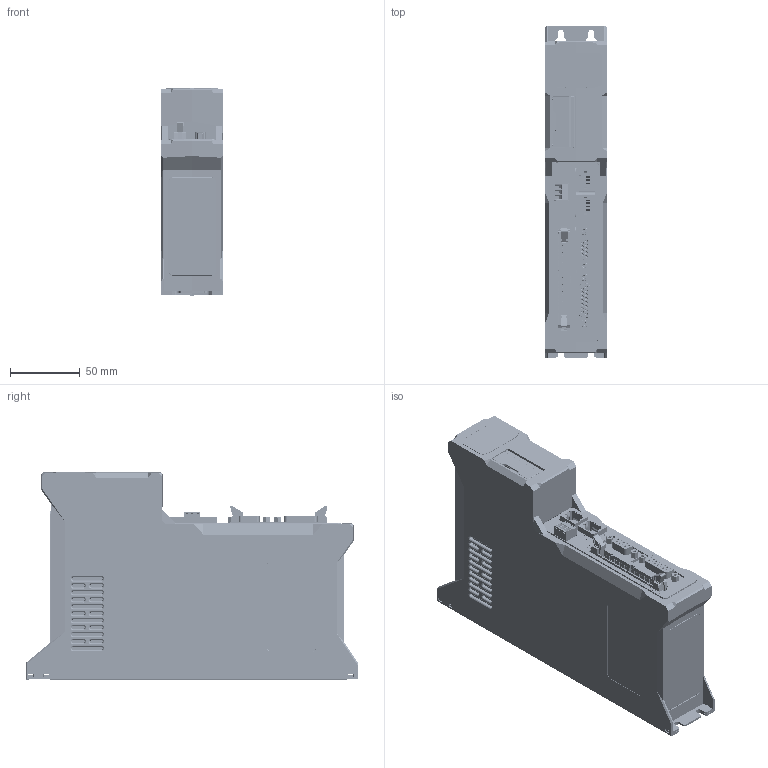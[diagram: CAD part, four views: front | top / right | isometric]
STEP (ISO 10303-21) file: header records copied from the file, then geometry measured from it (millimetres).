
FILE_DESCRIPTION (( 'STEP AP203' ), '1' );
FILE_NAME ('PULSER3-RTEX.STEP', '2026-06-01T14:46:01', ( '' ), ( '' ), 'SwSTEP 2.0', 'SolidWorks 2019', '' );
FILE_SCHEMA (( 'CONFIG_CONTROL_DESIGN' ));
Length unit declared in the file: millimetre
Products named in the file (99): 61204022121_34; 61204022121_07; 61204022121_05; 61204022121_43; Dsub-15w-disi-14298_D‚faut; 61204022121_11; P3encEtiket01; 61204022121; 20020110d031a01lf; USB_Mini_B_SMD_buchse_Standard; 20020110d031a01lf_04; Pulser3_Part001_MainPcb; Pulser2v1rtex_Part002_haberlesmePcb; 61204022121_08; 691313510003_04; 61204022121_16; 61204022121_41; HSCkontrol_logo_2022_4mm; 20020110d031a01lf_03; 61204022121_21; 61204022121_24; WEA012864DWPP3N00003_LCD; microSD_Toplu; 61204022121_28; Pulser3_Asm002_encMpgPcbToplu; 20020004d031b01lf_01; P3encPart04; P3encEtiket01B; 61204022121_12; P3encPart01; 61204022121_23; 691313510003_03; 61204022121_18; sd; 61204022121_32; P3encPart06ecat_rtex; P3encEtiket03_Rtex; 61204022121_38; RJ45pcbLEDSIZ; 61204022121_15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
Assembly tree (125 placements, depth 6):
  PULSER3-RTEX
    P3encAsm00_temelKasa
      P3encPart01
      Threaded insert M3 Short  x12
      P3encPart05
      P3encPart02
      P3encPart04
      P3enc_Asm01_mainPcbToplu
        Pulser3_Part001_MainPcb
        691313510003
          691313510003_01
          691313510003_02
          691313510003_03
          691313510003_04
        RJ45pcbLEDSIZ
        RJ45disiKonnektorLEDSIZ  x2
        Pulser3_Part002_displayPcb
        microSD_Toplu
          sd
            sd
          slot
            slot
        20020110d031a01lf
          20020110d031a01lf_01
          20020110d031a01lf_02
          20020110d031a01lf_03
          20020110d031a01lf_04
          20020110d031a01lf_05
        61204022121
          61204022121_01
          61204022121_02
          61204022121_03
          61204022121_04
          61204022121_05
          61204022121_06
          61204022121_07
          61204022121_08
          61204022121_09
          61204022121_10
          61204022121_11
          61204022121_12
          61204022121_13
          61204022121_14
          61204022121_15
          61204022121_16
          61204022121_17
          61204022121_18
          61204022121_19
          61204022121_20
          61204022121_21
          61204022121_22
          61204022121_23
          61204022121_24
          61204022121_25
          61204022121_26
          61204022121_27
          61204022121_28
          61204022121_29
          61204022121_30
          61204022121_31
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Bounding box: 44 x 238.1 x 148.5 mm (x, y, z)
Volume: 269335.5 mm3; surface area: 312462.7 mm2
Topology: 124 solids, 124 shells, 13212 faces, 35160 edges, 22808 vertices
Faces by surface type: plane 9173, cylinder 2664, bspline 896, cone 446, torus 33
Entity records: 341683 total; most frequent: CARTESIAN_POINT 85962, ORIENTED_EDGE 52902, DIRECTION 46873, EDGE_CURVE 26451, VECTOR 20405, LINE 20405, VERTEX_POINT 17111, AXIS2_PLACEMENT_3D 13234
